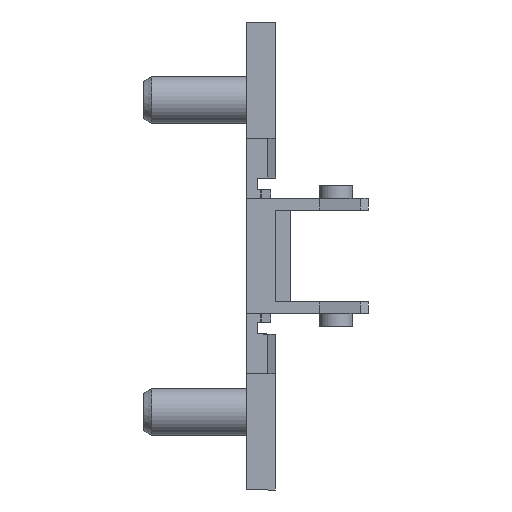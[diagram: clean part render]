
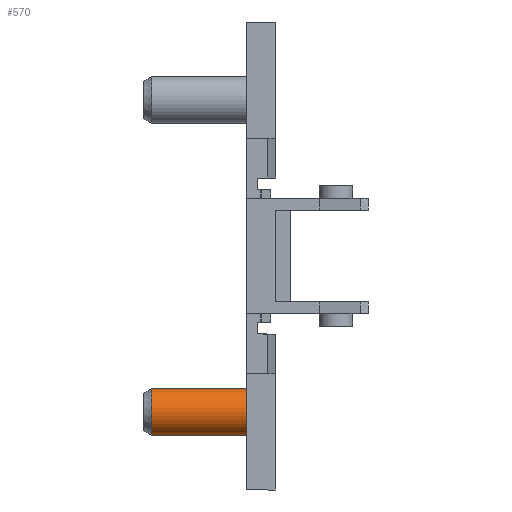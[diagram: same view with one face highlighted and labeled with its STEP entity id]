
A CAD part, front view. The second image highlights one B-rep face of the part: STEP entity #570.
In plain terms, the highlighted cylindrical face has radius 2.4 mm (diameter 4.8 mm), a partial arc.
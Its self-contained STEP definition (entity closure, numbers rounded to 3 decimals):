
#178 = EDGE_CURVE ( 'NONE', #3949, #3945, #3731, .T. ) ;
#233 = EDGE_CURVE ( 'NONE', #3948, #3944, #3826, .T. ) ;
#499 = CARTESIAN_POINT ( 'NONE',  ( -10.5, 0., -13.6 ) ) ;
#517 = DIRECTION ( 'NONE',  ( -1., 0., 0. ) ) ;
#570 = ADVANCED_FACE ( 'NONE', ( #2022 ), #2021, .T. ) ;
#935 = DIRECTION ( 'NONE',  ( 0., 0., -1. ) ) ;
#936 = DIRECTION ( 'NONE',  ( -1., 0., 0. ) ) ;
#937 = CARTESIAN_POINT ( 'NONE',  ( -10.5, 0., -16. ) ) ;
#1338 = CARTESIAN_POINT ( 'NONE',  ( -9.7, 0., -16. ) ) ;
#1380 = DIRECTION ( 'NONE',  ( 1., 0., 0. ) ) ;
#1381 = DIRECTION ( 'NONE',  ( 0., 0., -1. ) ) ;
#1421 = CARTESIAN_POINT ( 'NONE',  ( 0.695, 0., -16. ) ) ;
#1425 = DIRECTION ( 'NONE',  ( 1., 0., 0. ) ) ;
#1426 = DIRECTION ( 'NONE',  ( 0., 0., -1. ) ) ;
#1550 = CARTESIAN_POINT ( 'NONE',  ( 0.695, 0., -13.6 ) ) ;
#1552 = CARTESIAN_POINT ( 'NONE',  ( -9.7, 0., -13.6 ) ) ;
#1557 = CARTESIAN_POINT ( 'NONE',  ( -9.7, 0., -18.4 ) ) ;
#1559 = CARTESIAN_POINT ( 'NONE',  ( 0.695, 0., -18.4 ) ) ;
#2021 = CYLINDRICAL_SURFACE ( 'NONE', #2374, 2.4 ) ;
#2022 = FACE_OUTER_BOUND ( 'NONE', #3048, .T. ) ;
#2207 = CIRCLE ( 'NONE', #2479, 2.4 ) ;
#2234 = CIRCLE ( 'NONE', #2362, 2.4 ) ;
#2344 = EDGE_CURVE ( 'NONE', #3944, #3945, #2207, .T. ) ;
#2362 = AXIS2_PLACEMENT_3D ( 'NONE', #1421, #1425, #1426 ) ;
#2374 = AXIS2_PLACEMENT_3D ( 'NONE', #937, #936, #935 ) ;
#2406 = EDGE_CURVE ( 'NONE', #3948, #3949, #2234, .T. ) ;
#2479 = AXIS2_PLACEMENT_3D ( 'NONE', #1338, #1380, #1381 ) ;
#2807 = ORIENTED_EDGE ( 'NONE', *, *, #2406, .F. ) ;
#2833 = ORIENTED_EDGE ( 'NONE', *, *, #2344, .T. ) ;
#2841 = ORIENTED_EDGE ( 'NONE', *, *, #178, .F. ) ;
#2846 = ORIENTED_EDGE ( 'NONE', *, *, #233, .T. ) ;
#3048 = EDGE_LOOP ( 'NONE', ( #2807, #2846, #2833, #2841 ) ) ;
#3731 = LINE ( 'NONE', #4570, #3732 ) ;
#3732 = VECTOR ( 'NONE', #4720, 1000. ) ;
#3826 = LINE ( 'NONE', #499, #3827 ) ;
#3827 = VECTOR ( 'NONE', #517, 1000. ) ;
#3944 = VERTEX_POINT ( 'NONE', #1552 ) ;
#3945 = VERTEX_POINT ( 'NONE', #1557 ) ;
#3948 = VERTEX_POINT ( 'NONE', #1550 ) ;
#3949 = VERTEX_POINT ( 'NONE', #1559 ) ;
#4570 = CARTESIAN_POINT ( 'NONE',  ( -10.5, 0., -18.4 ) ) ;
#4720 = DIRECTION ( 'NONE',  ( -1., 0., 0. ) ) ;
